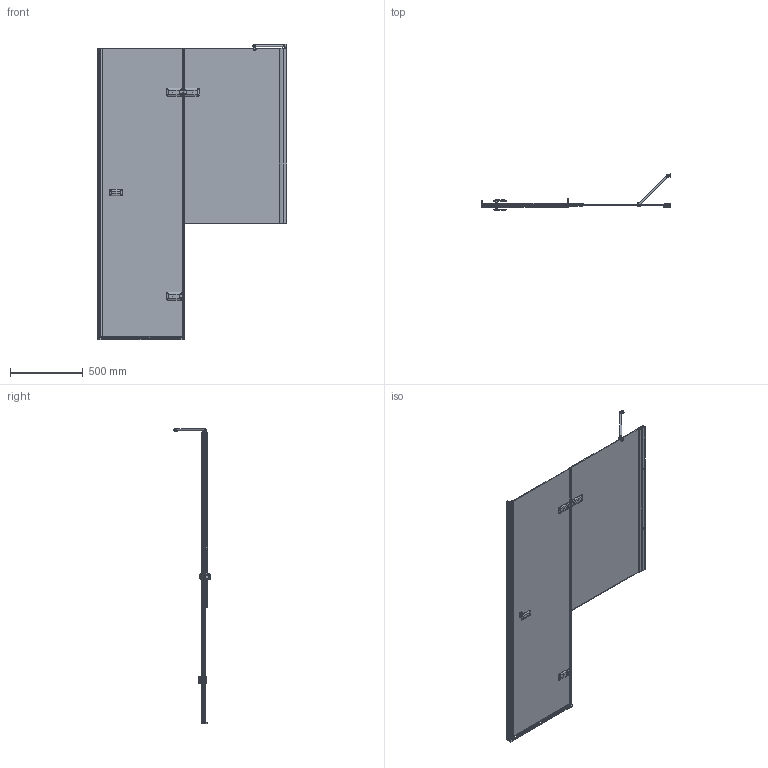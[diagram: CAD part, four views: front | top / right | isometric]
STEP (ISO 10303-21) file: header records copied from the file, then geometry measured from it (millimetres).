
FILE_DESCRIPTION(/* description */ ('Стенка передняя'),/* implementation_level */ '2;1');
FILE_NAME(/* name */ 'D:\Работа\Сергей\Душевые кабинки\! Работа\! 32\TREND DOOR GK-862APLTWO\TREND DOOR GK-862APLTWO правая модель\TREND DOOR GK-862APLTWO ПРАВАЯ (3D для рендера).stp',/* time_stamp */ '2019-05-10T17:06:54+03:00',/* author */ ('User'),/* organization */ (''),/* preprocessor_version */ 'ST-DEVELOPER v15.2',/* originating_system */ 'Autodesk Inventor 2014',/* authorisation */ '');
FILE_SCHEMA (('CONFIG_CONTROL_DESIGN'));
Length unit declared in the file: millimetre
Products named in the file (64): Стекло.02 (P-5) TR; Стекло.03 (0) TR; M180-6; Магнит_180; М180-6; UP600M6.02; PR-10-SLK; 07-003; CH20-004; CH21-001; CH21-002; CH21-003; ISO 4026 - M5 x 5ISO; 113; UP603М8.03; PL-10-SLK10-R; PR-12-001; CH26-1 P1; CH26-1 P7; CH25-1 P2; CH25-1 P3; CH26-1 P8; CH27-1_2; CH26-1 P2; CH26-1 P3; CH26-1 P4; CH26-1 P5; CH26-1 P6; CH26-0 P13; CH26-0 P14; CH26-0 P15; CH26-0 P11; CH26-0 P12; CH27-0 P1; CH27-0 P3; CH27-0-P2; CH27-1_1; STB-12-3-001; STB-3 P2; STB-3 P3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
Bounding box: 1300 x 249.9 x 2031.49 mm (x, y, z)
Volume: 15065030.3 mm3; surface area: 6044431.8 mm2
Topology: 115 solids, 115 shells, 2193 faces, 5531 edges, 3584 vertices
Faces by surface type: plane 1245, cylinder 677, cone 160, bspline 68, torus 35, sphere 8
Full cylindrical faces by diameter (mm): 1.5 x6, 2.459 x2, 3 x3, 3.242 x6, 4 x19, 4.1 x1, 4.134 x5, 4.917 x10, 5 x10, 5.2 x2, 5.4 x2, 5.54 x2, 6 x19, 6.5 x6, 6.647 x1, 7.2 x4, 8 x9, 8.2 x4, 8.5 x1, 9 x7, 10 x7, 11 x5, 11.34 x8, 12 x19, 12.5 x1, 13 x11, 15 x1, 16 x3, 16.5 x2, 17.85 x2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
Entity records: 46273 total; most frequent: CARTESIAN_POINT 10323, DIRECTION 7401, ORIENTED_EDGE 6920, EDGE_CURVE 3460, AXIS2_PLACEMENT_3D 2591, VERTEX_POINT 2357, LINE 2219, VECTOR 2219
